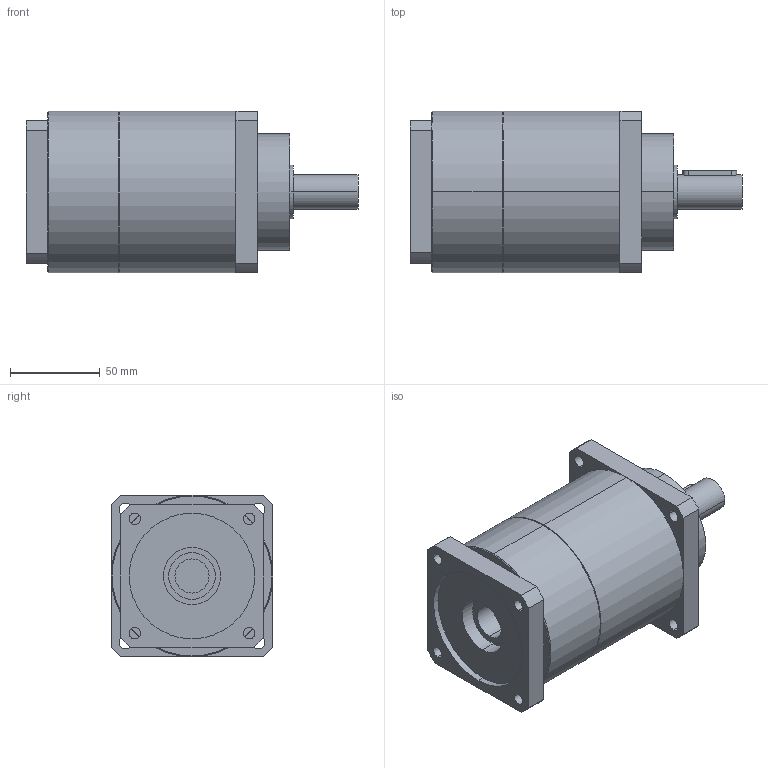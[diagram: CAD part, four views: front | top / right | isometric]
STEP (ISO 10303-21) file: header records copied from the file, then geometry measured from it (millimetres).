
FILE_DESCRIPTION(('CoCreate Modeling STEP Export'),'2;1');
FILE_NAME('GPT90_ig-9-12-16-20-25-28-35-40-50-70-100_19_B5T_19_P12.stp','2015-02-04T11:32:54',(''),(''),'CoCreate Modeling STEP processor for AP214 (Solid Model)','CoCreate Modeling 16.00C 25-Feb-2009 (C) Parametric Technology GmbH','');
FILE_SCHEMA(('AUTOMOTIVE_DESIGN { 1 0 10303 214 1 1 1 1 }'));
Length unit declared in the file: millimetre
Products named in the file (2): GPT90_ig-9-12-16-20-25-28-35-40-50-70-100_19_B5T_19_P12
Assembly tree (1 placements, depth 2):
  GPT90_ig-9-12-16-20-25-28-35-40-50-70-100_19_B5T_19_P12
    GPT90_ig-9-12-16-20-25-28-35-40-50-70-100_19_B5T_19_P12
Bounding box: 185 x 90 x 90 mm (x, y, z)
Volume: 879723.6 mm3; surface area: 66937.3 mm2
Topology: 1 solids, 1 shells, 88 faces, 237 edges, 156 vertices
Faces by surface type: cylinder 46, plane 38, cone 4
Entity records: 2783 total; most frequent: CARTESIAN_POINT 766, ORIENTED_EDGE 474, DIRECTION 338, EDGE_CURVE 237, VERTEX_POINT 156, AXIS2_PLACEMENT_3D 125, EDGE_LOOP 109, VECTOR 88
